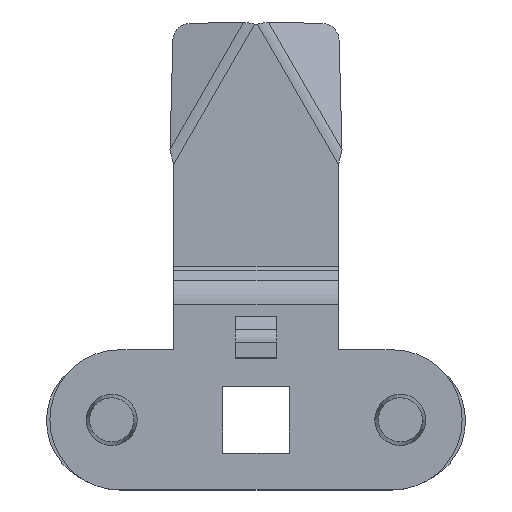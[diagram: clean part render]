
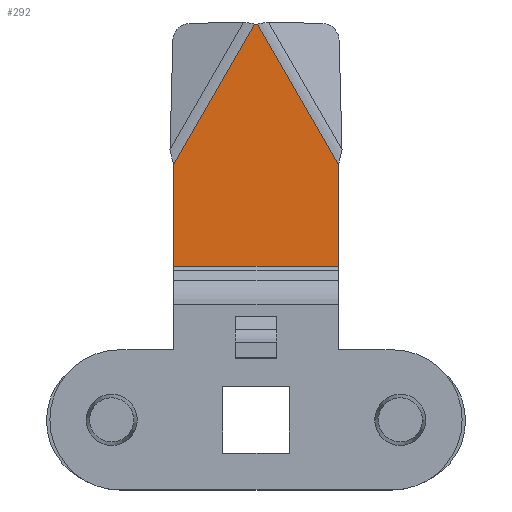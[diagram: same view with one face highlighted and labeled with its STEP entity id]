
A CAD part, top view. The second image highlights one B-rep face of the part: STEP entity #292.
In plain terms, the highlighted planar face has unit normal (0, 0, 1).
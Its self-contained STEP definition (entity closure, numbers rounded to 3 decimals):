
#278 = VERTEX_POINT ( 'NONE', #1840 ) ;
#279 = ORIENTED_EDGE ( 'NONE', *, *, #280, .T. ) ;
#280 = EDGE_CURVE ( 'NONE', #278, #281, #1839, .T. ) ;
#281 = VERTEX_POINT ( 'NONE', #1835 ) ;
#292 = ADVANCED_FACE ( 'NONE', ( #1880 ), #1879, .T. ) ;
#293 = EDGE_LOOP ( 'NONE', ( #351, #354, #357, #360, #279, #336 ) ) ;
#294 = VERTEX_POINT ( 'NONE', #1874 ) ;
#336 = ORIENTED_EDGE ( 'NONE', *, *, #337, .T. ) ;
#337 = EDGE_CURVE ( 'NONE', #281, #294, #1929, .T. ) ;
#351 = ORIENTED_EDGE ( 'NONE', *, *, #352, .T. ) ;
#352 = EDGE_CURVE ( 'NONE', #294, #353, #1961, .T. ) ;
#353 = VERTEX_POINT ( 'NONE', #2014 ) ;
#354 = ORIENTED_EDGE ( 'NONE', *, *, #355, .T. ) ;
#355 = EDGE_CURVE ( 'NONE', #353, #356, #2013, .T. ) ;
#356 = VERTEX_POINT ( 'NONE', #2009 ) ;
#357 = ORIENTED_EDGE ( 'NONE', *, *, #358, .T. ) ;
#358 = EDGE_CURVE ( 'NONE', #356, #359, #2008, .T. ) ;
#359 = VERTEX_POINT ( 'NONE', #2004 ) ;
#360 = ORIENTED_EDGE ( 'NONE', *, *, #361, .F. ) ;
#361 = EDGE_CURVE ( 'NONE', #278, #359, #2003, .T. ) ;
#1835 = CARTESIAN_POINT ( 'NONE',  ( -10., 27.127, 0. ) ) ;
#1836 = DIRECTION ( 'NONE',  ( 0., -1., 0. ) ) ;
#1837 = VECTOR ( 'NONE', #1836, 1000. ) ;
#1838 = CARTESIAN_POINT ( 'NONE',  ( -10., 15.869, 0. ) ) ;
#1839 = LINE ( 'NONE', #1838, #1837 ) ;
#1840 = CARTESIAN_POINT ( 'NONE',  ( -10., 39.497, 0. ) ) ;
#1874 = CARTESIAN_POINT ( 'NONE',  ( 10., 27.127, 0. ) ) ;
#1875 = DIRECTION ( 'NONE',  ( 1., 0., 0. ) ) ;
#1876 = DIRECTION ( 'NONE',  ( 0., 0., 1. ) ) ;
#1877 = CARTESIAN_POINT ( 'NONE',  ( -16.5, 7.369, 0. ) ) ;
#1878 = AXIS2_PLACEMENT_3D ( 'NONE', #1877, #1876, #1875 ) ;
#1879 = PLANE ( 'NONE',  #1878 ) ;
#1880 = FACE_OUTER_BOUND ( 'NONE', #293, .T. ) ;
#1926 = DIRECTION ( 'NONE',  ( 1., 0., 0. ) ) ;
#1927 = VECTOR ( 'NONE', #1926, 1000. ) ;
#1928 = CARTESIAN_POINT ( 'NONE',  ( -16.5, 27.127, 0. ) ) ;
#1929 = LINE ( 'NONE', #1928, #1927 ) ;
#1957 = CARTESIAN_POINT ( 'NONE',  ( 10., 15.869, 0. ) ) ;
#1961 = LINE ( 'NONE', #1957, #2016 ) ;
#2000 = DIRECTION ( 'NONE',  ( 0.5, 0.866, 0. ) ) ;
#2001 = VECTOR ( 'NONE', #2000, 1000. ) ;
#2002 = CARTESIAN_POINT ( 'NONE',  ( -25.537, 12.587, 0. ) ) ;
#2003 = LINE ( 'NONE', #2002, #2001 ) ;
#2004 = CARTESIAN_POINT ( 'NONE',  ( -0.183, 56.5, 0. ) ) ;
#2005 = DIRECTION ( 'NONE',  ( -1., 0., 0. ) ) ;
#2006 = VECTOR ( 'NONE', #2005, 1000. ) ;
#2007 = CARTESIAN_POINT ( 'NONE',  ( -10., 56.5, 0. ) ) ;
#2008 = LINE ( 'NONE', #2007, #2006 ) ;
#2009 = CARTESIAN_POINT ( 'NONE',  ( 0.183, 56.5, 0. ) ) ;
#2010 = DIRECTION ( 'NONE',  ( -0.5, 0.866, 0. ) ) ;
#2011 = VECTOR ( 'NONE', #2010, 1000. ) ;
#2012 = CARTESIAN_POINT ( 'NONE',  ( 17.287, 26.876, 0. ) ) ;
#2013 = LINE ( 'NONE', #2012, #2011 ) ;
#2014 = CARTESIAN_POINT ( 'NONE',  ( 10., 39.497, 0. ) ) ;
#2015 = DIRECTION ( 'NONE',  ( 0., 1., 0. ) ) ;
#2016 = VECTOR ( 'NONE', #2015, 1000. ) ;
